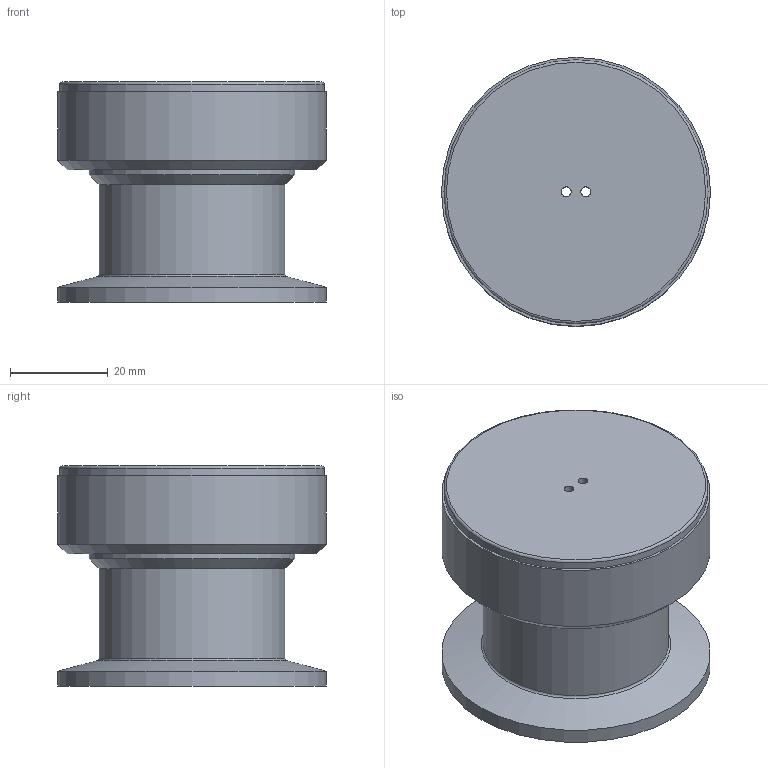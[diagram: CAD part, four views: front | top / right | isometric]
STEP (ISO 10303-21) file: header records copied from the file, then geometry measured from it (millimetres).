
FILE_DESCRIPTION( ( 'Unknown' ), '1' );
FILE_NAME( 'X:/Daten ( aktueller Bestand )/Projekte und Zeichnungen/Solid Edge/STP-Dateien/Sonderbauteile KF/1753-2.stp', 'Unknown', ( 'Unknown' ), ( 'Unknown' ), 'PSStep 14.0', 'Unknown', ' ' );
FILE_SCHEMA( ( 'AUTOMOTIVE_DESIGN { 1 0 10303 214 1 1 1 1 }' ) );
Length unit declared in the file: millimetre
Products named in the file (3): Assem1; 1743-1.1; 1743-1.22
Assembly tree (2 placements, depth 2):
  Assem1
    1743-1.1
    1743-1.22
Bounding box: 55 x 55 x 45 mm (x, y, z)
Volume: 35455.4 mm3; surface area: 22950.5 mm2
Topology: 2 solids, 2 shells, 29 faces, 54 edges, 33 vertices
Faces by surface type: cylinder 12, plane 8, cone 7, torus 2
Full cylindrical faces by diameter (mm): 2 x2, 25.5 x1, 36.1 x1, 38 x1, 41.2 x1, 42 x2, 45 x1, 54 x1, 55 x2
Entity records: 892 total; most frequent: DIRECTION 124, CARTESIAN_POINT 92, AXIS2_PLACEMENT_3D 62, EDGE_LOOP 60, ORIENTED_EDGE 60, FACE_OUTER_BOUND 43, EDGE_CURVE 30, VERTEX_POINT 30
